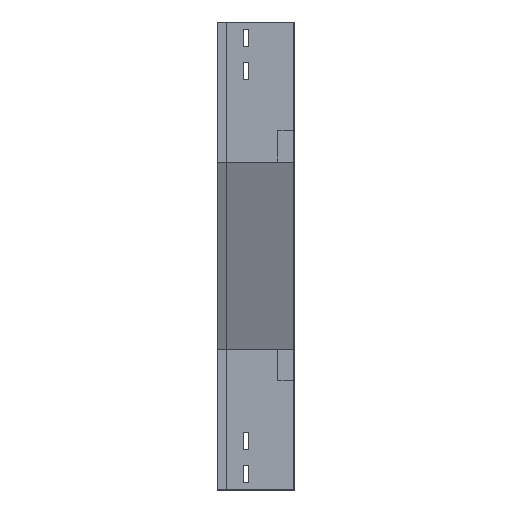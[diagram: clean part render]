
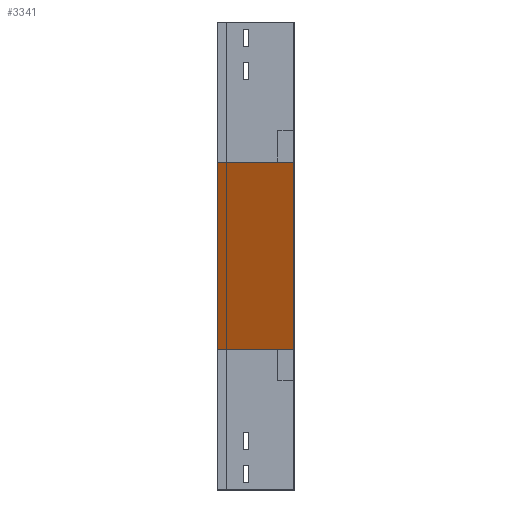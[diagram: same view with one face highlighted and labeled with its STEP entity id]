
A CAD part, left-side view. The second image highlights one B-rep face of the part: STEP entity #3341.
In plain terms, the highlighted planar face has unit normal (-0.923, 0, -0.385).
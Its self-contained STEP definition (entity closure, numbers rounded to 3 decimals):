
#36 = VECTOR ( 'NONE', #786, 1000. ) ;
#149 = VERTEX_POINT ( 'NONE', #2922 ) ;
#589 = VERTEX_POINT ( 'NONE', #2131 ) ;
#676 = VERTEX_POINT ( 'NONE', #3062 ) ;
#677 = DIRECTION ( 'NONE',  ( 0., -1., 0. ) ) ;
#786 = DIRECTION ( 'NONE',  ( 0.385, 0., -0.923 ) ) ;
#806 = PLANE ( 'NONE',  #1612 ) ;
#914 = CARTESIAN_POINT ( 'NONE',  ( 0., 0., -180. ) ) ;
#1165 = CARTESIAN_POINT ( 'NONE',  ( 0., 100., -180. ) ) ;
#1179 = DIRECTION ( 'NONE',  ( 0., 1., 0. ) ) ;
#1330 = ORIENTED_EDGE ( 'NONE', *, *, #1432, .F. ) ;
#1363 = VECTOR ( 'NONE', #1179, 1000. ) ;
#1388 = EDGE_CURVE ( 'NONE', #589, #676, #1736, .T. ) ;
#1432 = EDGE_CURVE ( 'NONE', #589, #149, #3440, .T. ) ;
#1612 = AXIS2_PLACEMENT_3D ( 'NONE', #3378, #1977, #1644 ) ;
#1644 = DIRECTION ( 'NONE',  ( 0.385, 0., -0.923 ) ) ;
#1708 = EDGE_CURVE ( 'NONE', #2375, #676, #3037, .T. ) ;
#1736 = LINE ( 'NONE', #1165, #2132 ) ;
#1977 = DIRECTION ( 'NONE',  ( 0.923, 0., 0.385 ) ) ;
#2002 = DIRECTION ( 'NONE',  ( 0.385, 0., -0.923 ) ) ;
#2030 = ORIENTED_EDGE ( 'NONE', *, *, #1388, .T. ) ;
#2124 = CARTESIAN_POINT ( 'NONE',  ( 100., 0., -420. ) ) ;
#2131 = CARTESIAN_POINT ( 'NONE',  ( 0., 100., -180. ) ) ;
#2132 = VECTOR ( 'NONE', #2002, 1000. ) ;
#2195 = CARTESIAN_POINT ( 'NONE',  ( 100., 0., -420. ) ) ;
#2210 = LINE ( 'NONE', #3582, #36 ) ;
#2375 = VERTEX_POINT ( 'NONE', #2124 ) ;
#2780 = VECTOR ( 'NONE', #677, 1000. ) ;
#2922 = CARTESIAN_POINT ( 'NONE',  ( 0., 0., -180. ) ) ;
#3011 = ORIENTED_EDGE ( 'NONE', *, *, #1708, .F. ) ;
#3029 = EDGE_LOOP ( 'NONE', ( #3421, #1330, #2030, #3011 ) ) ;
#3037 = LINE ( 'NONE', #2195, #1363 ) ;
#3062 = CARTESIAN_POINT ( 'NONE',  ( 100., 100., -420. ) ) ;
#3089 = FACE_OUTER_BOUND ( 'NONE', #3029, .T. ) ;
#3341 = ADVANCED_FACE ( 'NONE', ( #3089 ), #806, .F. ) ;
#3348 = EDGE_CURVE ( 'NONE', #149, #2375, #2210, .T. ) ;
#3378 = CARTESIAN_POINT ( 'NONE',  ( 0., 0., -180. ) ) ;
#3421 = ORIENTED_EDGE ( 'NONE', *, *, #3348, .F. ) ;
#3440 = LINE ( 'NONE', #914, #2780 ) ;
#3582 = CARTESIAN_POINT ( 'NONE',  ( 0., 0., -180. ) ) ;
